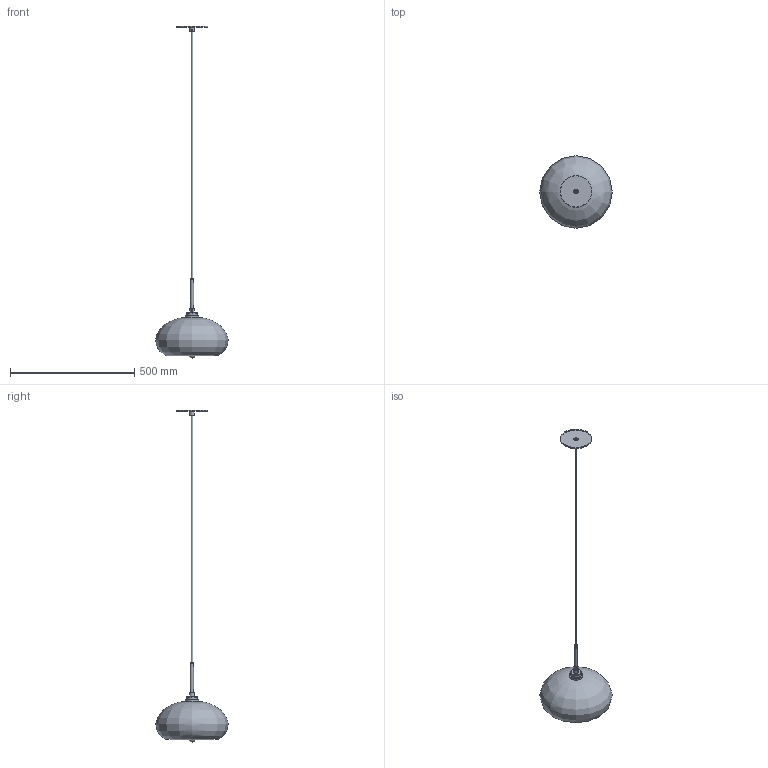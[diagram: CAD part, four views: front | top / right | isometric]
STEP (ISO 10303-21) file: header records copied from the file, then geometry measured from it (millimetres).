
FILE_DESCRIPTION(/* description */ (''),/* implementation_level */ '2;1');
FILE_NAME(/* name */ 'C:/Users/zach/Niche/Product Development - Documents/CAD Models/Pendants/Aurora/Glass - Luxe Hardware/Niche - Aurora Pendant.step',/* time_stamp */ '2022-09-27T15:29:23-04:00',/* author */ (''),/* organization */ (''),/* preprocessor_version */ 'ST-DEVELOPER v19',/* originating_system */ 'Autodesk Translation Framework v11.7.0.108',/* authorisation */ '');
FILE_SCHEMA (('AUTOMOTIVE_DESIGN { 1 0 10303 214 3 1 1 }'));
Length unit declared in the file: inch
Products named in the file (1): Aurora
Bounding box: 291.91 x 291.79 x 1334.94 mm (x, y, z)
Volume: 931599.3 mm3; surface area: 507794.2 mm2
Topology: 11 solids, 11 shells, 185 faces, 474 edges, 315 vertices
Faces by surface type: cylinder 123, plane 47, bspline 11, cone 3, sphere 1
Full cylindrical faces by diameter (mm): 4.529 x1, 5.08 x1, 6.096 x1, 6.35 x1, 6.5 x1, 7.62 x1, 7.744 x7, 8.036 x15, 8.852 x1, 8.884 x8, 9.035 x1, 9.146 x11, 10.16 x1, 12.7 x2, 19.05 x1, 19.2 x1, 25.4 x1, 26.022 x1, 34.97 x1, 35.052 x9, 37.85 x8, 39 x1, 39.35 x1, 41.035 x1, 41.2 x1, 41.884 x1, 44 x1, 55 x2, 125.476 x1, 127 x1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
Entity records: 14940 total; most frequent: CARTESIAN_POINT 10740, ORIENTED_EDGE 946, DIRECTION 688, EDGE_CURVE 473, VERTEX_POINT 315, AXIS2_PLACEMENT_3D 260, B_SPLINE_CURVE_WITH_KNOTS 218, EDGE_LOOP 214
